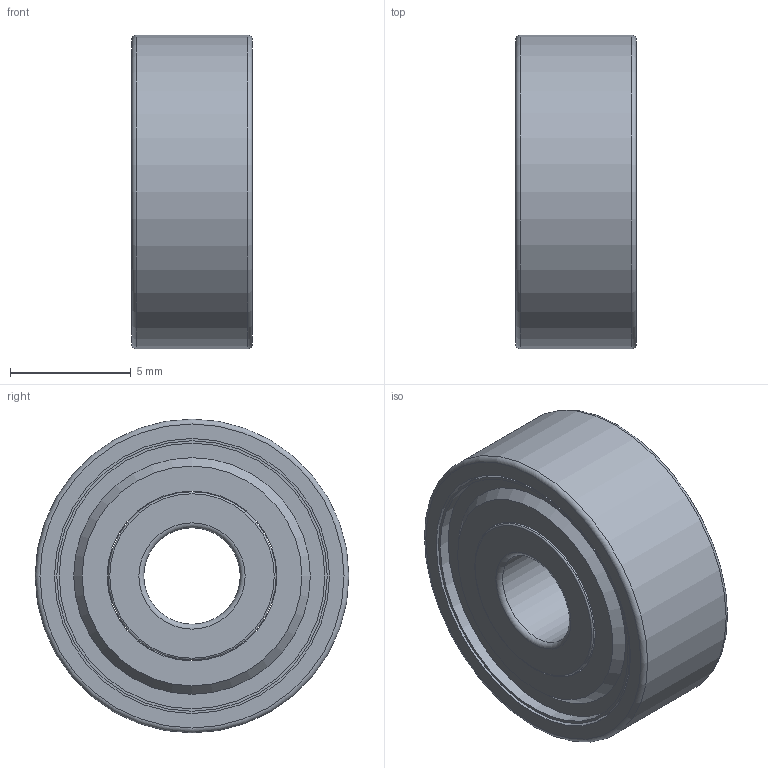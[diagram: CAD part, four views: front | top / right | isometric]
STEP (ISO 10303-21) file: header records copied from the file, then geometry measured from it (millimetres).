
FILE_DESCRIPTION(/* description */ (''),/* implementation_level */ '2;1');
FILE_NAME(/* name */ 'C:\MOJE SUBORY\624\624-2ZR.stp',/* time_stamp */ '2022-05-10T09:04:31+02:00',/* author */ ('OUPIONTEKM'),/* organization */ (''),/* preprocessor_version */ 'ST-DEVELOPER v19',/* originating_system */ 'Autodesk Inventor 2023',/* authorisation */ '');
FILE_SCHEMA (('AUTOMOTIVE_DESIGN { 1 0 10303 214 3 1 1 }'));
Length unit declared in the file: millimetre
Products named in the file (6): 624; IR_624_ZVL; OR_624_ZVL; KUGEL; BLECH; BLECH_MIR
Assembly tree (10 placements, depth 2):
  624
    IR_624_ZVL
    OR_624_ZVL
    KUGEL  x6
    BLECH
    BLECH_MIR
Bounding box: 5 x 13 x 13 mm (x, y, z)
Volume: 377.8 mm3; surface area: 1155.9 mm2
Topology: 10 solids, 10 shells, 52 faces, 102 edges, 68 vertices
Faces by surface type: plane 18, cylinder 16, torus 8, sphere 6, cone 4
Full cylindrical faces by diameter (mm): 4 x1, 6.95 x2, 7.035 x2, 7.235 x2, 10.3 x2, 11.008 x2, 11.208 x2, 11.394 x2, 13 x1
Entity records: 1479 total; most frequent: DIRECTION 276, CARTESIAN_POINT 206, ORIENTED_EDGE 170, AXIS2_PLACEMENT_3D 128, EDGE_CURVE 85, EDGE_LOOP 65, CIRCLE 65, VERTEX_POINT 58
